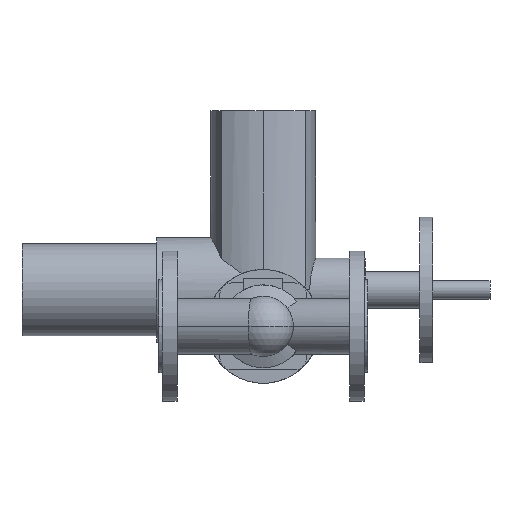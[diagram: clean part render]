
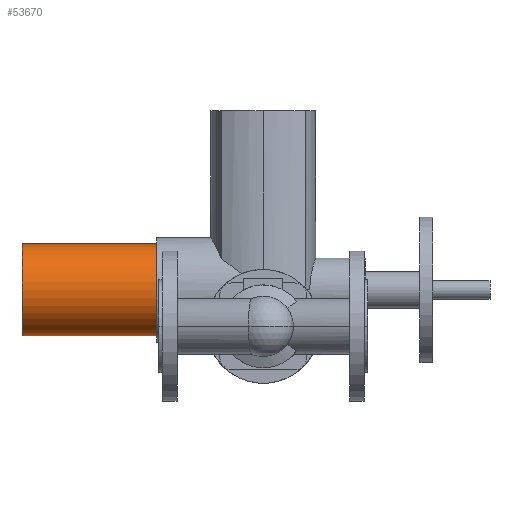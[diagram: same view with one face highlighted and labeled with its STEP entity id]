
A CAD part, front view. The second image highlights one B-rep face of the part: STEP entity #53670.
In plain terms, the highlighted cylindrical face has radius 50.5 mm (diameter 101 mm), a partial arc.
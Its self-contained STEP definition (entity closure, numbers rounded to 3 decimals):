
#53120=CARTESIAN_POINT('',(-76.,587.,40.));
#53130=DIRECTION('',(1.,0.,0.));
#53140=DIRECTION('',(0.,0.,-1.));
#53150=AXIS2_PLACEMENT_3D('',#53120,#53130,#53140);
#53160=CYLINDRICAL_SURFACE('',#53150,50.5);
#53170=CARTESIAN_POINT('',(-76.,587.,90.5));
#53180=DIRECTION('',(1.,0.,0.));
#53190=VECTOR('',#53180,1.);
#53200=LINE('',#53170,#53190);
#53210=CARTESIAN_POINT('',(-150.,587.,90.5));
#53220=VERTEX_POINT('',#53210);
#53230=CARTESIAN_POINT('',(-2.,587.,90.5));
#53240=VERTEX_POINT('',#53230);
#53250=SURFACE_CURVE('',#53200,(#53160,#53160),.CURVE_3D.);
#53260=EDGE_CURVE('',#53220,#53240,#53250,.T.);
#53270=ORIENTED_EDGE('',*,*,#53260,.F.);
#53280=CARTESIAN_POINT('',(-2.,587.,40.));
#53290=DIRECTION('',(-1.,0.,0.));
#53300=DIRECTION('',(0.,0.,-1.));
#53310=AXIS2_PLACEMENT_3D('',#53280,#53290,#53300);
#53320=CIRCLE('',#53310,50.5);
#53330=CARTESIAN_POINT('',(-2.,587.,-10.5));
#53340=VERTEX_POINT('',#53330);
#53350=CARTESIAN_POINT('',(-2.,587.,-14.));
#53360=DIRECTION('',(-1.,0.,0.));
#53370=DIRECTION('',(0.,0.,-1.));
#53380=AXIS2_PLACEMENT_3D('',#53350,#53360,#53370);
#53390=PLANE('',#53380);
#53400=SURFACE_CURVE('',#53320,(#53160,#53390),.CURVE_3D.);
#53410=EDGE_CURVE('',#53340,#53240,#53400,.T.);
#53420=ORIENTED_EDGE('',*,*,#53410,.T.);
#53430=CARTESIAN_POINT('',(-76.,587.,-10.5));
#53440=DIRECTION('',(1.,0.,0.));
#53450=VECTOR('',#53440,1.);
#53460=LINE('',#53430,#53450);
#53470=CARTESIAN_POINT('',(-150.,587.,-10.5));
#53480=VERTEX_POINT('',#53470);
#53490=SURFACE_CURVE('',#53460,(#53160,#53160),.CURVE_3D.);
#53500=EDGE_CURVE('',#53480,#53340,#53490,.T.);
#53510=ORIENTED_EDGE('',*,*,#53500,.T.);
#53520=CARTESIAN_POINT('',(-150.,587.,40.));
#53530=DIRECTION('',(-1.,0.,0.));
#53540=DIRECTION('',(0.,0.,-1.));
#53550=AXIS2_PLACEMENT_3D('',#53520,#53530,#53540);
#53560=CIRCLE('',#53550,50.5);
#53570=CARTESIAN_POINT('',(-150.,587.,14.75));
#53580=DIRECTION('',(-1.,0.,0.));
#53590=DIRECTION('',(0.,0.,-1.));
#53600=AXIS2_PLACEMENT_3D('',#53570,#53580,#53590);
#53610=PLANE('',#53600);
#53620=SURFACE_CURVE('',#53560,(#53160,#53610),.CURVE_3D.);
#53630=EDGE_CURVE('',#53480,#53220,#53620,.T.);
#53640=ORIENTED_EDGE('',*,*,#53630,.F.);
#53650=EDGE_LOOP('',(#53640,#53510,#53420,#53270));
#53660=FACE_OUTER_BOUND('',#53650,.T.);
#53670=ADVANCED_FACE('',(#53660),#53160,.T.);
